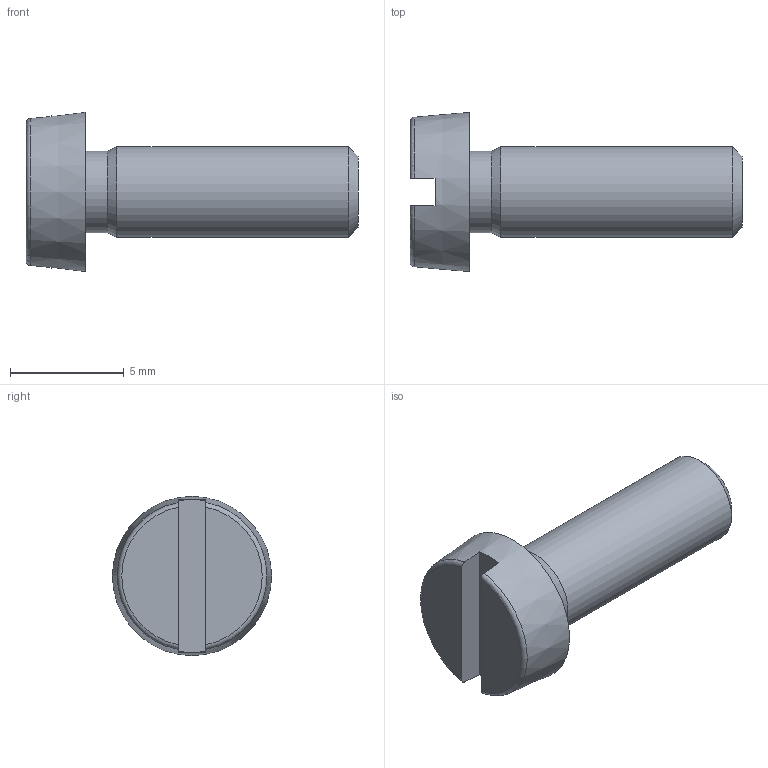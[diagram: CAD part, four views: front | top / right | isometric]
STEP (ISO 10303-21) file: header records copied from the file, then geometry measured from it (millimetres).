
FILE_DESCRIPTION(/* description */ ('6각머리 태핑 나사'),/* implementation_level */ '2;1');
FILE_NAME(/* name */ '',/* time_stamp */ '2024-07-17T10:27:39+09:00',/* author */ ('jhkim'),/* organization */ (''),/* preprocessor_version */ 'ST-DEVELOPER v20',/* originating_system */ 'Autodesk Inventor 2025',/* authorisation */ '');
FILE_SCHEMA (('AUTOMOTIVE_DESIGN { 1 0 10303 214 3 1 1 }'));
Length unit declared in the file: millimetre
Products named in the file (1): 볼트 M4 x 12
Bounding box: 14.6 x 7 x 7 mm (x, y, z)
Volume: 231.5 mm3; surface area: 287.2 mm2
Topology: 1 solids, 1 shells, 14 faces, 31 edges, 20 vertices
Faces by surface type: plane 7, cone 3, cylinder 2, torus 2
Full cylindrical faces by diameter (mm): 3.571 x1, 4 x1
Entity records: 460 total; most frequent: CARTESIAN_POINT 110, DIRECTION 67, ORIENTED_EDGE 62, EDGE_CURVE 31, AXIS2_PLACEMENT_3D 29, VERTEX_POINT 20, EDGE_LOOP 15, FACE_OUTER_BOUND 14
